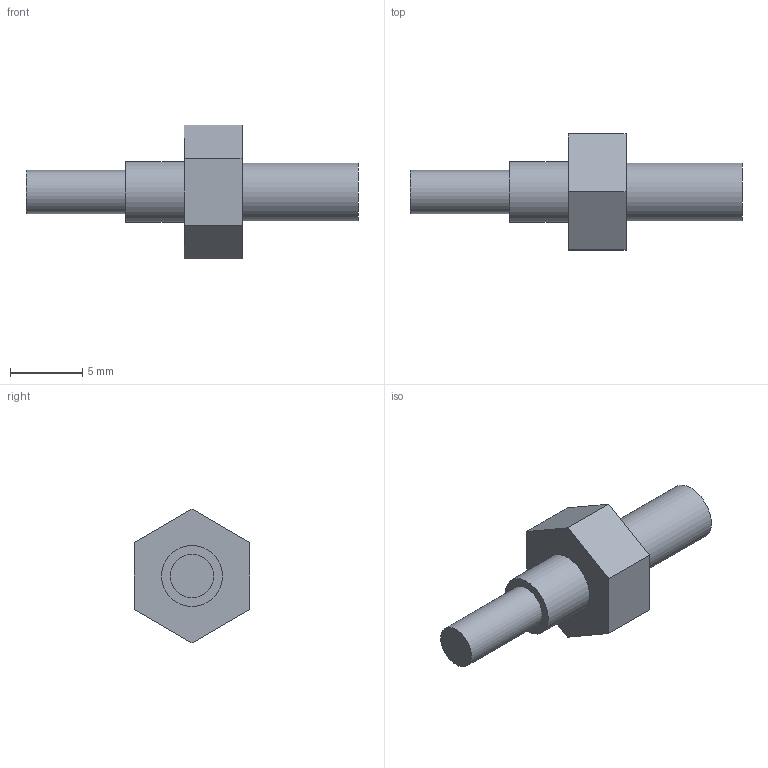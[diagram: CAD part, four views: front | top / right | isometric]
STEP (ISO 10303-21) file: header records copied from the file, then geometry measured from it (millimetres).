
FILE_DESCRIPTION(('Open CASCADE Model'),'2;1');
FILE_NAME('Open CASCADE Shape Model','2026-09-23T04:43:37',('Author'),( 'Open CASCADE'),'Open CASCADE STEP processor 7.9','Open CASCADE 7.9' ,'Unknown');
FILE_SCHEMA(('AUTOMOTIVE_DESIGN { 1 0 10303 214 1 1 1 1 }'));
Length unit declared in the file: millimetre
Products named in the file (1): Open CASCADE STEP translator 7.9 10
Bounding box: 22.9 x 8 x 9.24 mm (x, y, z)
Volume: 426.5 mm3; surface area: 440.1 mm2
Topology: 1 solids, 1 shells, 14 faces, 27 edges, 18 vertices
Faces by surface type: plane 11, cylinder 3
Full cylindrical faces by diameter (mm): 3 x1, 4 x1, 4.2 x1
Entity records: 727 total; most frequent: CARTESIAN_POINT 132, DIRECTION 114, LINE 69, VECTOR 69, ORIENTED_EDGE 54, PCURVE 54, DEFINITIONAL_REPRESENTATION 54, EDGE_CURVE 27
